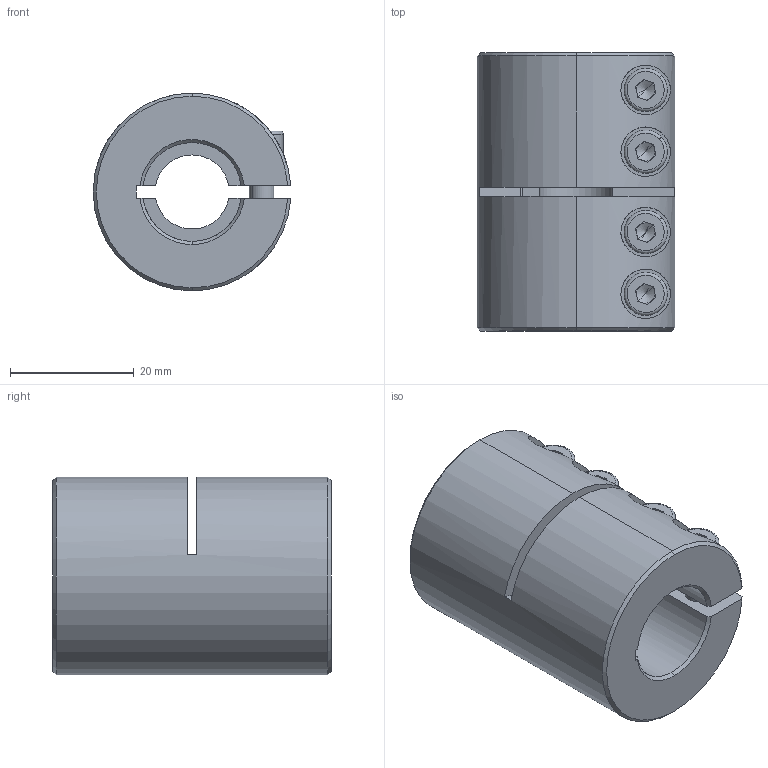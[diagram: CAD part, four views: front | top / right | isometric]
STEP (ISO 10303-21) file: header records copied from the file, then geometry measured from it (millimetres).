
FILE_DESCRIPTION (( 'STEP AP214' ), '1' );
FILE_NAME ('LL-B-D32L45-12-16½¨Ä£.STEP', '2022-07-21T07:12:03', ( '' ), ( '' ), 'SwSTEP 2.0', 'SolidWorks 2022', '' );
FILE_SCHEMA (( 'AUTOMOTIVE_DESIGN' ));
Length unit declared in the file: millimetre
Products named in the file (1): LL-B-D32L45-12-16膘耀
Bounding box: 31.97 x 45 x 32 mm (x, y, z)
Volume: 27114.3 mm3; surface area: 10837.8 mm2
Topology: 1 solids, 1 shells, 193 faces, 492 edges, 309 vertices
Faces by surface type: plane 88, cylinder 77, cone 20, torus 8
Entity records: 6357 total; most frequent: CARTESIAN_POINT 1583, DIRECTION 1037, ORIENTED_EDGE 968, EDGE_CURVE 484, AXIS2_PLACEMENT_3D 403, VERTEX_POINT 309, LINE 231, VECTOR 231
